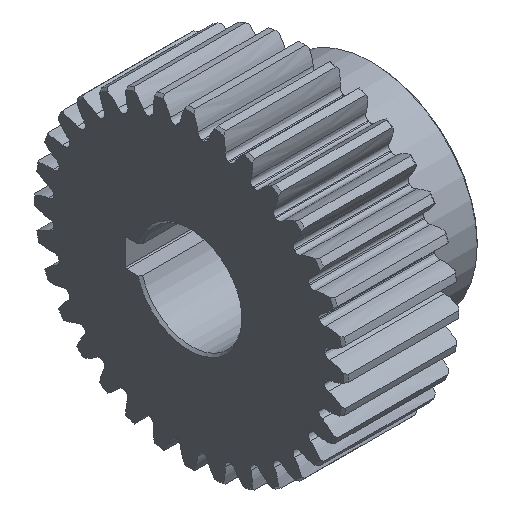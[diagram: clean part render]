
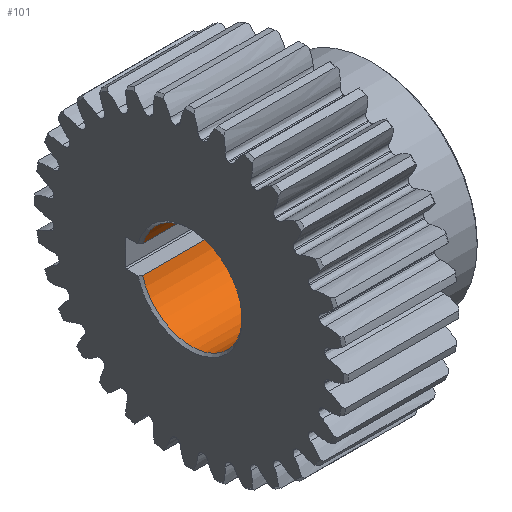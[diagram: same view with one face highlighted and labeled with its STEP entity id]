
A CAD part, isometric view. The second image highlights one B-rep face of the part: STEP entity #101.
In plain terms, the highlighted cylindrical face has radius 11 mm (diameter 22 mm), a partial arc.
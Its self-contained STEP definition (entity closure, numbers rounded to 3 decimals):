
#101=ADVANCED_FACE('',(#2549,#2551),#2553,.F.);
#2549=FACE_BOUND('',#2550,.T.);
#2550=EDGE_LOOP('',(#4518,#4519,#4520,#4521));
#2551=FACE_BOUND('',#2552,.T.);
#2552=EDGE_LOOP('',(#4522));
#2553=CYLINDRICAL_SURFACE('',#2554,11.);
#2554=AXIS2_PLACEMENT_3D('',#2555,#2556,#2557);
#2555=CARTESIAN_POINT('',(0.,0.,0.));
#2556=DIRECTION('',(1.,0.,0.));
#2557=DIRECTION('',(0.,-0.,1.));
#4518=ORIENTED_EDGE('',*,*,#7138,.T.);
#4519=ORIENTED_EDGE('',*,*,#7137,.F.);
#4520=ORIENTED_EDGE('',*,*,#7139,.T.);
#4521=ORIENTED_EDGE('',*,*,#7133,.F.);
#4522=ORIENTED_EDGE('',*,*,#7140,.T.);
#7133=EDGE_CURVE('',#8138,#8140,#8141,.T.);
#7137=EDGE_CURVE('',#8145,#8143,#8147,.F.);
#7138=EDGE_CURVE('',#8138,#8143,#8148,.T.);
#7139=EDGE_CURVE('',#8145,#8140,#8149,.F.);
#7140=EDGE_CURVE('',#8150,#8150,#8151,.T.);
#8138=VERTEX_POINT('',#10206);
#8140=VERTEX_POINT('',#10213);
#8141=CIRCLE('',#10214,11.);
#8143=VERTEX_POINT('',#10224);
#8145=VERTEX_POINT('',#10231);
#8147=CIRCLE('',#10238,11.);
#8148=LINE('',#10242,#10243);
#8149=LINE('',#10245,#10246);
#8150=VERTEX_POINT('',#10248);
#8151=(BOUNDED_CURVE()B_SPLINE_CURVE(3,
(#10249,#10250,#10251,#10252,#10253,#10254,#10255,#10256,#10257,#10258,#10259,#10260,
#10261,#10262,#10263,#10264,#10265,#10266,#10267,#10268,#10269,#10270,#10271,#10272,
#10273,#10274,#10275,#10276,#10277,#10278,#10279,#10280,#10281,#10282,#10283,#10284,
#10285,#10286,#10287,#10288,#10289,#10290,#10291,#10292,#10293,#10294,#10295,#10296,
#10297,#10298,#10299,#10300,#10301,#10302,#10303,#10304,#10305,#10306,#10307,#10308,
#10309,#10310,#10311,#10312,#10313,#10314,#10315,#10316,#10317,#10318,#10319),
.UNSPECIFIED.,.T.,.F.)B_SPLINE_CURVE_WITH_KNOTS((4,1,1,1,1,1,1,1,1,1,1,1,1,1,1,1,
1,1,1,1,1,1,1,1,1,1,1,1,1,1,1,1,1,1,1,1,1,1,1,1,1,1,1,1,1,1,1,1,1,1,1,1,1,1,1,1,
1,1,1,1,1,1,1,1,1,1,1,1,4),
(0.,0.008,0.017,0.026,0.041,
0.054,0.067,0.076,0.086,0.096,
0.106,0.117,0.133,0.151,0.169,
0.185,0.2,0.215,0.228,0.241,
0.254,0.271,0.289,0.308,0.324,
0.34,0.357,0.373,0.389,0.403,
0.418,0.436,0.456,0.472,0.483,
0.494,0.504,0.516,0.526,0.538,
0.55,0.562,0.578,0.593,0.609,
0.623,0.639,0.656,0.675,0.694,
0.711,0.727,0.744,0.76,0.776,
0.794,0.812,0.831,0.848,0.865,
0.881,0.901,0.92,0.938,0.953,
0.967,0.979,0.989,1.),
.UNSPECIFIED.)CURVE()GEOMETRIC_REPRESENTATION_ITEM()RATIONAL_B_SPLINE_CURVE((1.,
1.,1.,1.,1.,1.,1.,1.,1.,1.,1.,1.,1.,1.,1.,1.,1.,1.,1.,1.,1.,1.,1.,1.,1.,1.,1.,1.,
1.,1.,1.,1.,1.,1.,1.,1.,1.,1.,1.,1.,1.,1.,1.,1.,1.,1.,1.,1.,1.,1.,1.,1.,1.,1.,1.,
1.,1.,1.,1.,1.,1.,1.,1.,1.,1.,1.,1.,1.,1.,1.,1.))REPRESENTATION_ITEM(''));
#10206=CARTESIAN_POINT('',(0.5,10.583,3.));
#10213=CARTESIAN_POINT('',(0.5,10.583,-3.));
#10214=AXIS2_PLACEMENT_3D('',#10215,#10216,#10217);
#10215=CARTESIAN_POINT('',(0.5,0.,0.));
#10216=DIRECTION('',(1.,0.,0.));
#10217=DIRECTION('',(0.,0.962,0.273));
#10224=CARTESIAN_POINT('',(39.5,10.583,3.));
#10231=CARTESIAN_POINT('',(39.5,10.583,-3.));
#10238=AXIS2_PLACEMENT_3D('',#10239,#10240,#10241);
#10239=CARTESIAN_POINT('',(39.5,0.,0.));
#10240=DIRECTION('',(1.,0.,0.));
#10241=DIRECTION('',(0.,0.962,0.273));
#10242=CARTESIAN_POINT('',(0.5,10.583,3.));
#10243=VECTOR('',#10244,1.);
#10244=DIRECTION('',(1.,0.,0.));
#10245=CARTESIAN_POINT('',(0.5,10.583,-3.));
#10246=VECTOR('',#10247,1.);
#10247=DIRECTION('',(1.,0.,0.));
#10248=CARTESIAN_POINT('',(36.229,-5.5,-9.526));
#10249=CARTESIAN_POINT('',(36.229,-5.5,-9.526));
#10250=CARTESIAN_POINT('',(36.229,-5.533,-9.507));
#10251=CARTESIAN_POINT('',(36.227,-5.602,-9.467));
#10252=CARTESIAN_POINT('',(36.217,-5.707,-9.404));
#10253=CARTESIAN_POINT('',(36.196,-5.836,-9.324));
#10254=CARTESIAN_POINT('',(36.16,-5.981,-9.232));
#10255=CARTESIAN_POINT('',(36.104,-6.133,-9.132));
#10256=CARTESIAN_POINT('',(36.042,-6.26,-9.045));
#10257=CARTESIAN_POINT('',(35.977,-6.37,-8.968));
#10258=CARTESIAN_POINT('',(35.909,-6.469,-8.897));
#10259=CARTESIAN_POINT('',(35.835,-6.562,-8.829));
#10260=CARTESIAN_POINT('',(35.751,-6.653,-8.76));
#10261=CARTESIAN_POINT('',(35.641,-6.758,-8.68));
#10262=CARTESIAN_POINT('',(35.493,-6.876,-8.587));
#10263=CARTESIAN_POINT('',(35.301,-6.997,-8.488));
#10264=CARTESIAN_POINT('',(35.097,-7.098,-8.404));
#10265=CARTESIAN_POINT('',(34.891,-7.177,-8.337));
#10266=CARTESIAN_POINT('',(34.694,-7.234,-8.287));
#10267=CARTESIAN_POINT('',(34.498,-7.276,-8.25));
#10268=CARTESIAN_POINT('',(34.307,-7.302,-8.227));
#10269=CARTESIAN_POINT('',(34.121,-7.316,-8.215));
#10270=CARTESIAN_POINT('',(33.921,-7.318,-8.213));
#10271=CARTESIAN_POINT('',(33.7,-7.304,-8.225));
#10272=CARTESIAN_POINT('',(33.455,-7.268,-8.257));
#10273=CARTESIAN_POINT('',(33.218,-7.212,-8.306));
#10274=CARTESIAN_POINT('',(32.998,-7.137,-8.371));
#10275=CARTESIAN_POINT('',(32.799,-7.049,-8.445));
#10276=CARTESIAN_POINT('',(32.612,-6.945,-8.531));
#10277=CARTESIAN_POINT('',(32.443,-6.828,-8.625));
#10278=CARTESIAN_POINT('',(32.297,-6.702,-8.723));
#10279=CARTESIAN_POINT('',(32.168,-6.568,-8.825));
#10280=CARTESIAN_POINT('',(32.049,-6.415,-8.937));
#10281=CARTESIAN_POINT('',(31.939,-6.231,-9.066));
#10282=CARTESIAN_POINT('',(31.856,-6.035,-9.198));
#10283=CARTESIAN_POINT('',(31.807,-5.853,-9.314));
#10284=CARTESIAN_POINT('',(31.782,-5.705,-9.405));
#10285=CARTESIAN_POINT('',(31.771,-5.575,-9.483));
#10286=CARTESIAN_POINT('',(31.77,-5.444,-9.559));
#10287=CARTESIAN_POINT('',(31.78,-5.31,-9.634));
#10288=CARTESIAN_POINT('',(31.801,-5.174,-9.707));
#10289=CARTESIAN_POINT('',(31.833,-5.035,-9.781));
#10290=CARTESIAN_POINT('',(31.879,-4.889,-9.854));
#10291=CARTESIAN_POINT('',(31.944,-4.732,-9.931));
#10292=CARTESIAN_POINT('',(32.029,-4.567,-10.008));
#10293=CARTESIAN_POINT('',(32.141,-4.395,-10.084));
#10294=CARTESIAN_POINT('',(32.268,-4.236,-10.152));
#10295=CARTESIAN_POINT('',(32.41,-4.087,-10.213));
#10296=CARTESIAN_POINT('',(32.572,-3.946,-10.268));
#10297=CARTESIAN_POINT('',(32.764,-3.809,-10.32));
#10298=CARTESIAN_POINT('',(32.985,-3.686,-10.364));
#10299=CARTESIAN_POINT('',(33.22,-3.587,-10.399));
#10300=CARTESIAN_POINT('',(33.454,-3.517,-10.423));
#10301=CARTESIAN_POINT('',(33.684,-3.473,-10.437));
#10302=CARTESIAN_POINT('',(33.913,-3.453,-10.444));
#10303=CARTESIAN_POINT('',(34.142,-3.456,-10.443));
#10304=CARTESIAN_POINT('',(34.375,-3.482,-10.434));
#10305=CARTESIAN_POINT('',(34.613,-3.534,-10.417));
#10306=CARTESIAN_POINT('',(34.853,-3.614,-10.389));
#10307=CARTESIAN_POINT('',(35.082,-3.72,-10.352));
#10308=CARTESIAN_POINT('',(35.289,-3.845,-10.306));
#10309=CARTESIAN_POINT('',(35.474,-3.983,-10.254));
#10310=CARTESIAN_POINT('',(35.65,-4.145,-10.19));
#10311=CARTESIAN_POINT('',(35.813,-4.33,-10.113));
#10312=CARTESIAN_POINT('',(35.954,-4.536,-10.022));
#10313=CARTESIAN_POINT('',(36.059,-4.736,-9.929));
#10314=CARTESIAN_POINT('',(36.133,-4.922,-9.838));
#10315=CARTESIAN_POINT('',(36.182,-5.089,-9.752));
#10316=CARTESIAN_POINT('',(36.21,-5.235,-9.675));
#10317=CARTESIAN_POINT('',(36.226,-5.369,-9.601));
#10318=CARTESIAN_POINT('',(36.229,-5.455,-9.553));
#10319=CARTESIAN_POINT('',(36.229,-5.5,-9.526));
